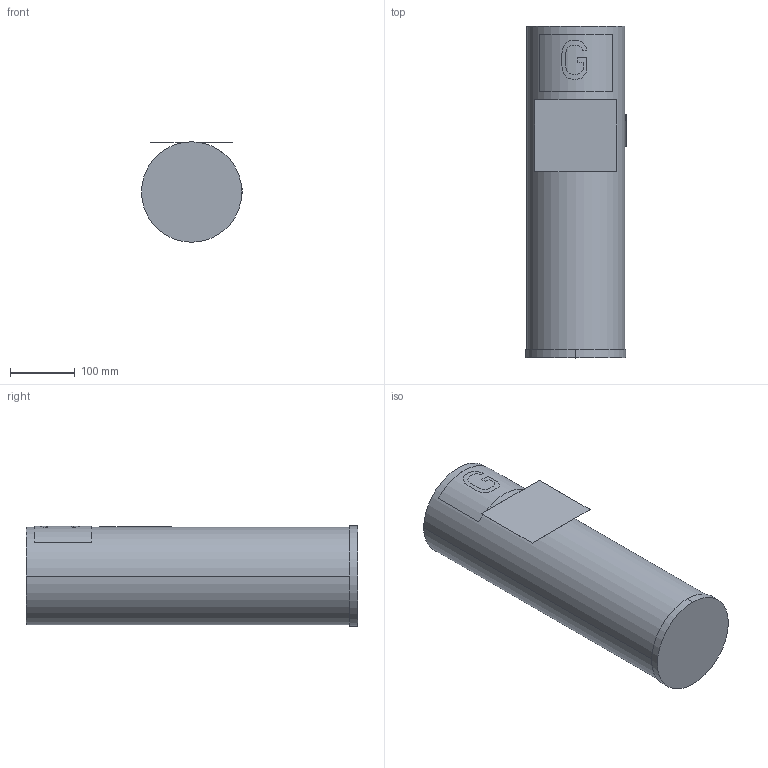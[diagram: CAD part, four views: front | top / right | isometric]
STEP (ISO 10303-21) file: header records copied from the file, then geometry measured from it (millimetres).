
FILE_DESCRIPTION((''),'2;1');
FILE_NAME('562903-EN-C_PRT','2019-12-31T21:45:28',('qusrh3'),(''),'CREO PARAMETRIC BY PTC INC, 2019030','CREO PARAMETRIC BY PTC INC, 2019030','');
FILE_SCHEMA(('CONFIG_CONTROL_DESIGN'));
Length unit declared in the file: inch
Products named in the file (1): 562903-EN-C_PRT
Bounding box: 156.54 x 514.35 x 155.6 mm (x, y, z)
Surface area: 347663.9 mm2 (no closed solid volume)
Topology: 0 solids, 8 shells, 31 faces, 125 edges, 102 vertices
Faces by surface type: cylinder 14, plane 11, bspline 3, torus 3
Entity records: 1504 total; most frequent: CARTESIAN_POINT 520, ORIENTED_EDGE 173, DIRECTION 172, EDGE_CURVE 125, VERTEX_POINT 102, AXIS2_PLACEMENT_3D 62, VECTOR 48, LINE 48
